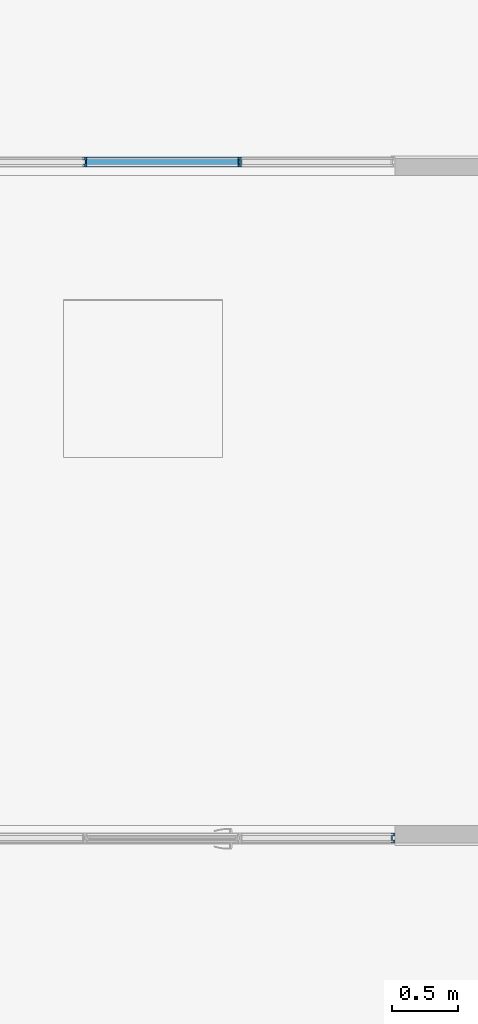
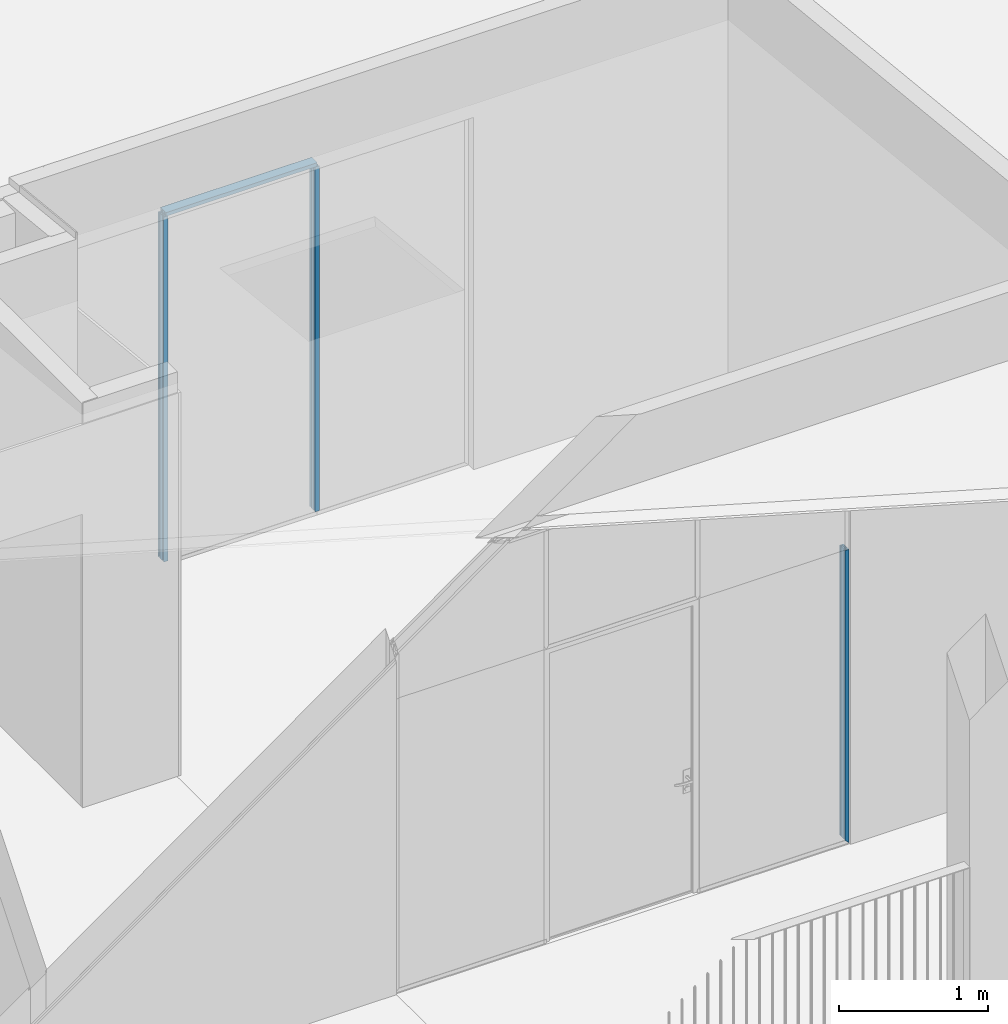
# One storey, part 5 of 43: 4 members, 2 elements without a shape of their own.
"""IFC2X3 building model written with IfcOpenShell, lengths in millimetres."""

from ifc_helpers import new_model, entity, si_unit, converted_unit, derived_unit, money_unit, direction, frame, origin_with_axes, place, context, subcontext, project, spatial, faceted_brep, source, transform, mapped, material, material_list, type_object, element, aggregate, save


model = new_model("IFC2X3")

# Units and contexts
model_context = context("Model", 3, precision=0.01, world=origin_with_axes(), true_north=direction((0.0, 1.0)))
body_context = subcontext(model_context, "Body", "Model", "MODEL_VIEW")
ifc_project = project(units=[si_unit("LENGTHUNIT", "METRE", prefix="MILLI"), si_unit("AREAUNIT", "SQUARE_METRE"), si_unit("VOLUMEUNIT", "CUBIC_METRE"), converted_unit("PLANEANGLEUNIT", "DEGREE", entity("IfcPlaneAngleMeasure", 0.0174532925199), si_unit("PLANEANGLEUNIT", "RADIAN"), dimensions=[0, 0, 0, 0, 0, 0, 0]), si_unit("SOLIDANGLEUNIT", "STERADIAN"), money_unit("EUR"), converted_unit("TIMEUNIT", "Year", entity("IfcTimeMeasure", 31556926.0), si_unit("TIMEUNIT", "SECOND"), dimensions=[0, 0, 1, 0, 0, 0, 0]), si_unit("MASSUNIT", "GRAM", prefix="KILO"), si_unit("THERMODYNAMICTEMPERATUREUNIT", "DEGREE_CELSIUS"), si_unit("LUMINOUSINTENSITYUNIT", "LUMEN"), si_unit("ENERGYUNIT", "JOULE", prefix="MEGA"), derived_unit("THERMALCONDUCTANCEUNIT", [(si_unit("POWERUNIT", "WATT"), 1), (si_unit("LENGTHUNIT", "METRE"), -1), (si_unit("THERMODYNAMICTEMPERATUREUNIT", "KELVIN"), -1)]), derived_unit("SPECIFICHEATCAPACITYUNIT", [(si_unit("ENERGYUNIT", "JOULE"), 1), (si_unit("MASSUNIT", "GRAM", prefix="KILO"), -1), (si_unit("THERMODYNAMICTEMPERATUREUNIT", "KELVIN"), -1)]), derived_unit("MASSDENSITYUNIT", [(si_unit("MASSUNIT", "GRAM", prefix="KILO"), 1), (si_unit("VOLUMEUNIT", "CUBIC_METRE"), -1)])], contexts=[model_context])

# Site, building, storey
site_placement = place(None, origin_with_axes())
site = spatial("IfcSite", under=ifc_project, at=site_placement, Name="L.Koidula tn 11b", CompositionType="ELEMENT")
building_placement = place(site_placement, origin_with_axes())
building = spatial("IfcBuilding", under=site, at=building_placement, Name="Rakvere Riigigümnaasium", CompositionType="ELEMENT")
storey_placement = place(building_placement, frame((0.0, 0.0, 6665.0), z_axis=(0.0, 0.0, 1.0), x_axis=(1.0, 0.0, 0.0)))
storey = spatial("IfcBuildingStorey", under=building, at=storey_placement, Name="3.korrus +6,66", CompositionType="ELEMENT", Elevation=6665.0)

# Curtain wall, member
curtain_wall_type = type_object("IfcCurtainWallType", Name="Curtain Wall Type", PredefinedType="NOTDEFINED")
curtain_wall_1_placement = place(storey_placement, frame((58878.6347232, 19272.4397072, 0.0), z_axis=(0.0, 0.0, 1.0), x_axis=(1.0, 0.0, 0.0)))
curtain_wall_1 = element("IfcCurtainWall", 1, at=curtain_wall_1_placement, inside=storey, type_object=curtain_wall_type, Name="SKLF-29")
ifc_material_1 = material(Name="Klaasvill")
ifc_material_2 = material(Name="Teras RAL7012")
ifc_material_list = material_list([ifc_material_1, ifc_material_2])
member_type_1 = type_object("IfcMemberType", Name="Boundary Frame 30 x 42", PredefinedType="MULLION")
shared_shape_1 = source(origin_with_axes(), body_context, "Body", "Brep", [
    faceted_brep([(13.8499999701, 15.000000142, 13.8500000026), (13.8499999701, 15.000000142, 2400.00000045), (7.49999990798, 15.000000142, 2400.00000045), (7.49999990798, 15.000000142, 7.49999992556), (13.8499999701, 29.0161444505, 13.8500000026), (13.8499999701, 29.0161444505, 2400.00000045), (7.49999990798, 29.0161444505, 2400.00000045), (7.49999990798, 29.0161444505, 7.49999992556)], [[[0, 1, 2, 3]], [[4, 5, 1, 0]], [[2, 1, 5, 6]], [[3, 2, 6, 7]], [[3, 7, 4, 0]], [[7, 6, 5, 4]]]),
    faceted_brep([(25.004489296, 27.0307503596, 25.0044893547), (25.004489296, 27.0307503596, 2400.00000045), (24.987414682, 29.0161444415, 2400.00000045), (24.987414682, 29.0161444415, 24.9874147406), (25.742237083, 26.2930025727, 25.7422371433), (25.742237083, 26.2930025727, 2400.00000045), (26.7500193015, 26.0229681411, 2400.00000045), (27.75780152, 26.2930025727, 2400.00000045), (28.4955493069, 27.0307503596, 2400.00000045), (28.7655837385, 28.0385325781, 2400.00000045), (28.5126239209, 29.0161444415, 2400.00000045), (28.5126239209, 29.0161444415, 28.5126239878), (28.7655837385, 28.0385325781, 28.765583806), (28.4955493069, 27.0307503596, 28.4955493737), (27.75780152, 26.2930025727, 27.7578015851), (26.7500193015, 26.0229681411, 26.7500193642)], [[[0, 1, 2, 3]], [[4, 5, 1, 0]], [[2, 1, 5, 6, 7, 8, 9, 10]], [[3, 2, 10, 11]], [[3, 11, 12, 13, 14, 15, 4, 0]], [[15, 6, 5, 4]], [[14, 7, 6, 15]], [[13, 8, 7, 14]], [[12, 9, 8, 13]], [[11, 10, 9, 12]]]),
    faceted_brep([(7.49999990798, -39.0161445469, 7.49999992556), (7.49999990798, -39.0161445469, 2400.00000045), (7.49999990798, -24.9999997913, 2400.00000045), (7.49999990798, -24.9999997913, 7.49999992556), (13.8499999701, -39.0161445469, 13.8500000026), (13.8499999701, -39.0161445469, 2400.00000045), (13.8499999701, -24.9999997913, 2400.00000045), (13.8499999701, -24.9999997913, 13.8500000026)], [[[0, 1, 2, 3]], [[4, 5, 1, 0]], [[2, 1, 5, 6]], [[3, 2, 6, 7]], [[3, 7, 4, 0]], [[7, 6, 5, 4]]]),
    faceted_brep([(24.987414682, -39.0161444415, 24.9874147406), (24.987414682, -39.0161444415, 2400.00000045), (25.004489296, -37.0307503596, 2400.00000045), (25.004489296, -37.0307503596, 25.0044893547), (28.5126239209, -39.0161444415, 28.5126239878), (28.5126239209, -39.0161444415, 2400.00000045), (28.7655837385, -38.0385325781, 2400.00000045), (28.4955493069, -37.0307503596, 2400.00000045), (27.75780152, -36.2930025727, 2400.00000045), (26.7500193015, -36.0229681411, 2400.00000045), (25.742237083, -36.2930025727, 2400.00000045), (25.742237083, -36.2930025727, 25.7422371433), (26.7500193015, -36.0229681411, 26.7500193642), (27.75780152, -36.2930025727, 27.7578015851), (28.4955493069, -37.0307503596, 28.4955493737), (28.7655837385, -38.0385325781, 28.765583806)], [[[0, 1, 2, 3]], [[4, 5, 1, 0]], [[2, 1, 5, 6, 7, 8, 9, 10]], [[3, 2, 10, 11]], [[3, 11, 12, 13, 14, 15, 4, 0]], [[15, 6, 5, 4]], [[14, 7, 6, 15]], [[13, 8, 7, 14]], [[12, 9, 8, 13]], [[11, 10, 9, 12]]]),
    faceted_brep([(29.5999996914, -22.0000000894, 29.5999997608), (29.5999996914, -22.0000000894, 2400.00000045), (0.0, -22.0000000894, 2400.00000045), (0.0, -22.0000000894, 0.0), (29.5999996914, 12.0000000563, 29.5999997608), (29.5999996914, 12.0000000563, 2400.00000045), (0.0, 12.0000000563, 2400.00000045), (1.9999999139, 10.0000001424, 2400.00000045), (18.7999996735, 10.0000001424, 2400.00000045), (18.7999996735, -20.0000001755, 2400.00000045), (1.9999999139, -20.0000001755, 2400.00000045), (0.0, 12.0000000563, 0.0), (1.9999999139, 10.0000001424, 1.99999991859), (1.9999999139, -20.0000001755, 1.99999991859), (18.7999996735, -20.0000001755, 18.7999997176), (18.7999996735, 10.0000001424, 18.7999997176)], [[[0, 1, 2, 3]], [[4, 5, 1, 0]], [[2, 1, 5, 6], [7, 8, 9, 10]], [[3, 2, 6, 11]], [[3, 11, 4, 0], [12, 13, 14, 15]], [[11, 6, 5, 4]], [[15, 8, 7, 12]], [[14, 9, 8, 15]], [[13, 10, 9, 14]], [[12, 7, 10, 13]]]),
    faceted_brep([(29.5999996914, 12.0000000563, 29.5999997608), (29.5999996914, 12.0000000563, 2400.00000045), (0.0, 12.0, 2400.00000045), (0.0, 12.0, 0.0), (30.0000193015, 12.0, 30.0000193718), (30.0000193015, 12.0, 2400.00000045), (30.0000193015, 15.0, 2400.00000045), (13.8499999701, 15.000000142, 2400.00000045), (7.49999999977, 15.0, 2400.00000045), (7.49999999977, 29.0161444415, 2400.00000045), (13.8499999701, 29.0161444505, 2400.00000045), (24.987414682, 29.0161444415, 2400.00000045), (28.5126239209, 29.0161444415, 2400.00000045), (30.0000193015, 29.0161444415, 2400.00000045), (30.0000193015, 32.0, 2400.00000045), (0.0, 32.0, 2400.00000045), (0.0, 32.0, 0.0), (30.0000193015, 32.0, 30.0000193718), (30.0000193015, 29.0161444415, 30.0000193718), (28.5126239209, 29.0161444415, 28.5126239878), (24.987414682, 29.0161444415, 24.9874147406), (13.8499999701, 29.0161444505, 13.8500000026), (7.49999999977, 29.0161444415, 7.50000001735), (7.49999999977, 15.0, 7.50000001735), (13.8499999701, 15.000000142, 13.8500000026), (30.0000193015, 15.0, 30.0000193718)], [[[0, 1, 2, 3]], [[4, 5, 1, 0]], [[2, 1, 5, 6, 7, 8, 9, 10, 11, 12, 13, 14, 15]], [[3, 2, 15, 16]], [[3, 16, 17, 18, 19, 20, 21, 22, 23, 24, 25, 4, 0]], [[25, 6, 5, 4]], [[24, 7, 6, 25]], [[23, 8, 7, 24]], [[22, 9, 8, 23]], [[21, 10, 9, 22]], [[20, 11, 10, 21]], [[19, 12, 11, 20]], [[18, 13, 12, 19]], [[17, 14, 13, 18]], [[16, 15, 14, 17]]]),
    faceted_brep([(0.0, -42.0, 0.0), (0.0, -42.0, 2400.00000045), (0.0, -22.0, 2400.00000045), (0.0, -22.0, 0.0), (30.0000193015, -42.0, 30.0000193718), (30.0000193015, -42.0, 2400.00000045), (30.0000193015, -39.0161444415, 2400.00000045), (28.5126239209, -39.0161444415, 2400.00000045), (24.987414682, -39.0161444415, 2400.00000045), (13.8499999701, -39.0161445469, 2400.00000045), (7.49999999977, -39.0161444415, 2400.00000045), (7.49999999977, -25.0, 2400.00000045), (13.8499999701, -24.9999997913, 2400.00000045), (30.0000193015, -25.0, 2400.00000045), (30.0000193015, -22.0, 2400.00000045), (29.5999996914, -22.0000000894, 2400.00000045), (29.5999996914, -22.0000000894, 29.5999997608), (30.0000193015, -22.0, 30.0000193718), (30.0000193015, -25.0, 30.0000193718), (13.8499999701, -24.9999997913, 13.8500000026), (7.49999999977, -25.0, 7.50000001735), (7.49999999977, -39.0161444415, 7.50000001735), (13.8499999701, -39.0161445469, 13.8500000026), (24.987414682, -39.0161444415, 24.9874147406), (28.5126239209, -39.0161444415, 28.5126239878), (30.0000193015, -39.0161444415, 30.0000193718)], [[[0, 1, 2, 3]], [[4, 5, 1, 0]], [[2, 1, 5, 6, 7, 8, 9, 10, 11, 12, 13, 14, 15]], [[3, 2, 15, 16]], [[3, 16, 17, 18, 19, 20, 21, 22, 23, 24, 25, 4, 0]], [[25, 6, 5, 4]], [[24, 7, 6, 25]], [[23, 8, 7, 24]], [[22, 9, 8, 23]], [[21, 10, 9, 22]], [[20, 11, 10, 21]], [[19, 12, 11, 20]], [[18, 13, 12, 19]], [[17, 14, 13, 18]], [[16, 15, 14, 17]]]),
])
member_1_placement = place(curtain_wall_1_placement, frame((2811.38617901, 0.0, 0.0), z_axis=(-2.34460154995e-09, 0.0, 1.0), x_axis=(-1.0, 0.0, -2.34460154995e-09)))
member_1 = element("IfcMember", 2, at=member_1_placement, type_object=member_type_1, material=ifc_material_list, Name="SKLF-30-raam", ObjectType="MULLION", context=body_context, shape_type="MappedRepresentation", body=[
    mapped(shared_shape_1, transform((0.0, 0.0, 0.0))),
])
aggregate(curtain_wall_1, [member_1])

# Curtain wall, members
curtain_wall_2_placement = place(storey_placement, frame((61105.020931, 24378.4555472, 0.0), z_axis=(0.0, 0.0, 1.0), x_axis=(1.0, 0.0, 0.0)))
curtain_wall_2 = element("IfcCurtainWall", 3, at=curtain_wall_2_placement, inside=storey, type_object=curtain_wall_type, Name="SKLF-28")
shared_shape_2 = source(origin_with_axes(), body_context, "Body", "Brep", [
    faceted_brep([(-7.49999990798, 15.000000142, 0.0), (-7.49999990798, 15.000000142, 1170.0), (-13.8499999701, 15.000000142, 1170.0), (-13.8499999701, 15.000000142, 0.0), (-7.49999990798, 29.0161444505, 0.0), (-7.49999990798, 29.0161444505, 1170.0), (-13.8499999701, 29.0161444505, 1170.0), (-13.8499999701, 29.0161444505, 0.0)], [[[0, 1, 2, 3]], [[4, 5, 1, 0]], [[1, 5, 6, 2]], [[3, 2, 6, 7]], [[0, 3, 7, 4]], [[7, 6, 5, 4]]]),
    faceted_brep([(-24.987414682, 29.0161444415, 0.0), (-24.987414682, 29.0161444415, 1170.0), (-25.004489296, 27.0307503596, 1170.0), (-25.004489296, 27.0307503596, 0.0), (-28.5126239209, 29.0161444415, 0.0), (-28.5126239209, 29.0161444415, 1170.0), (-28.7655837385, 28.0385325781, 1170.0), (-28.4955493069, 27.0307503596, 1170.0), (-27.75780152, 26.2930025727, 1170.0), (-26.7500193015, 26.0229681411, 1170.0), (-25.742237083, 26.2930025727, 1170.0), (-25.742237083, 26.2930025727, 0.0), (-26.7500193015, 26.0229681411, 0.0), (-27.75780152, 26.2930025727, 0.0), (-28.4955493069, 27.0307503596, 0.0), (-28.7655837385, 28.0385325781, 0.0)], [[[0, 1, 2, 3]], [[4, 5, 1, 0]], [[1, 5, 6, 7, 8, 9, 10, 2]], [[3, 2, 10, 11]], [[0, 3, 11, 12, 13, 14, 15, 4]], [[15, 6, 5, 4]], [[14, 7, 6, 15]], [[13, 8, 7, 14]], [[12, 9, 8, 13]], [[11, 10, 9, 12]]]),
    faceted_brep([(-7.49999990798, -24.9999997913, 0.0), (-7.49999990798, -24.9999997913, 1170.0), (-7.49999990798, -39.0161445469, 1170.0), (-7.49999990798, -39.0161445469, 0.0), (-13.8499999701, -24.9999997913, 0.0), (-13.8499999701, -24.9999997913, 1170.0), (-13.8499999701, -39.0161445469, 1170.0), (-13.8499999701, -39.0161445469, 0.0)], [[[0, 1, 2, 3]], [[4, 5, 1, 0]], [[1, 5, 6, 2]], [[3, 2, 6, 7]], [[0, 3, 7, 4]], [[7, 6, 5, 4]]]),
    faceted_brep([(-25.004489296, -37.0307503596, 0.0), (-25.004489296, -37.0307503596, 1170.0), (-24.987414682, -39.0161444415, 1170.0), (-24.987414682, -39.0161444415, 0.0), (-25.742237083, -36.2930025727, 0.0), (-25.742237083, -36.2930025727, 1170.0), (-26.7500193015, -36.0229681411, 1170.0), (-27.75780152, -36.2930025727, 1170.0), (-28.4955493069, -37.0307503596, 1170.0), (-28.7655837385, -38.0385325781, 1170.0), (-28.5126239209, -39.0161444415, 1170.0), (-28.5126239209, -39.0161444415, 0.0), (-28.7655837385, -38.0385325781, 0.0), (-28.4955493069, -37.0307503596, 0.0), (-27.75780152, -36.2930025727, 0.0), (-26.7500193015, -36.0229681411, 0.0)], [[[0, 1, 2, 3]], [[4, 5, 1, 0]], [[1, 5, 6, 7, 8, 9, 10, 2]], [[3, 2, 10, 11]], [[0, 3, 11, 12, 13, 14, 15, 4]], [[15, 6, 5, 4]], [[14, 7, 6, 15]], [[13, 8, 7, 14]], [[12, 9, 8, 13]], [[11, 10, 9, 12]]]),
    faceted_brep([(0.0, -22.0000000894, 0.0), (0.0, -22.0000000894, 1170.0), (-29.5999996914, -22.0000000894, 1170.0), (-29.5999996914, -22.0000000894, 0.0), (0.0, 12.0000000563, 0.0), (0.0, 12.0000000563, 1170.0), (-29.5999996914, 12.0000000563, 1170.0), (-1.9999999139, 10.0000001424, 1170.0), (-1.9999999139, -20.0000001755, 1170.0), (-18.7999996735, -20.0000001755, 1170.0), (-18.7999996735, 10.0000001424, 1170.0), (-29.5999996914, 12.0000000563, 0.0), (-1.9999999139, 10.0000001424, 0.0), (-18.7999996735, 10.0000001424, 0.0), (-18.7999996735, -20.0000001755, 0.0), (-1.9999999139, -20.0000001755, 0.0)], [[[0, 1, 2, 3]], [[4, 5, 1, 0]], [[1, 5, 6, 2], [7, 8, 9, 10]], [[3, 2, 6, 11]], [[0, 3, 11, 4], [12, 13, 14, 15]], [[11, 6, 5, 4]], [[15, 8, 7, 12]], [[14, 9, 8, 15]], [[13, 10, 9, 14]], [[12, 7, 10, 13]]]),
    faceted_brep([(0.0, 12.0, 0.0), (0.0, 12.0, 1170.0), (-29.5999996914, 12.0000000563, 1170.0), (-29.5999996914, 12.0000000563, 0.0), (0.0, 32.0, 0.0), (0.0, 32.0, 1170.0), (-30.0000193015, 32.0, 1170.0), (-30.0000193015, 29.0161444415, 1170.0), (-28.5126239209, 29.0161444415, 1170.0), (-24.987414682, 29.0161444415, 1170.0), (-13.8499999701, 29.0161444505, 1170.0), (-7.49999999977, 29.0161444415, 1170.0), (-7.49999999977, 15.0, 1170.0), (-13.8499999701, 15.000000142, 1170.0), (-30.0000193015, 15.0, 1170.0), (-30.0000193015, 12.0, 1170.0), (-30.0000193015, 12.0, 0.0), (-30.0000193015, 15.0, 0.0), (-13.8499999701, 15.000000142, 0.0), (-7.49999999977, 15.0, 0.0), (-7.49999999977, 29.0161444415, 0.0), (-13.8499999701, 29.0161444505, 0.0), (-24.987414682, 29.0161444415, 0.0), (-28.5126239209, 29.0161444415, 0.0), (-30.0000193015, 29.0161444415, 0.0), (-30.0000193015, 32.0, 0.0)], [[[0, 1, 2, 3]], [[4, 5, 1, 0]], [[1, 5, 6, 7, 8, 9, 10, 11, 12, 13, 14, 15, 2]], [[3, 2, 15, 16]], [[0, 3, 16, 17, 18, 19, 20, 21, 22, 23, 24, 25, 4]], [[25, 6, 5, 4]], [[24, 7, 6, 25]], [[23, 8, 7, 24]], [[22, 9, 8, 23]], [[21, 10, 9, 22]], [[20, 11, 10, 21]], [[19, 12, 11, 20]], [[18, 13, 12, 19]], [[17, 14, 13, 18]], [[16, 15, 14, 17]]]),
    faceted_brep([(0.0, -22.0, 0.0), (0.0, -22.0, 1170.0), (0.0, -42.0, 1170.0), (0.0, -42.0, 0.0), (-29.5999996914, -22.0000000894, 0.0), (-29.5999996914, -22.0000000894, 1170.0), (-30.0000193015, -22.0, 1170.0), (-30.0000193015, -25.0, 1170.0), (-13.8499999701, -24.9999997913, 1170.0), (-7.49999999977, -25.0, 1170.0), (-7.49999999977, -39.0161444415, 1170.0), (-13.8499999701, -39.0161445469, 1170.0), (-24.987414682, -39.0161444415, 1170.0), (-28.5126239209, -39.0161444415, 1170.0), (-30.0000193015, -39.0161444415, 1170.0), (-30.0000193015, -42.0, 1170.0), (-30.0000193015, -42.0, 0.0), (-30.0000193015, -39.0161444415, 0.0), (-28.5126239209, -39.0161444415, 0.0), (-24.987414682, -39.0161444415, 0.0), (-13.8499999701, -39.0161445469, 0.0), (-7.49999999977, -39.0161444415, 0.0), (-7.49999999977, -25.0, 0.0), (-13.8499999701, -24.9999997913, 0.0), (-30.0000193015, -25.0, 0.0), (-30.0000193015, -22.0, 0.0)], [[[0, 1, 2, 3]], [[4, 5, 1, 0]], [[1, 5, 6, 7, 8, 9, 10, 11, 12, 13, 14, 15, 2]], [[3, 2, 15, 16]], [[0, 3, 16, 17, 18, 19, 20, 21, 22, 23, 24, 25, 4]], [[25, 6, 5, 4]], [[24, 7, 6, 25]], [[23, 8, 7, 24]], [[22, 9, 8, 23]], [[21, 10, 9, 22]], [[20, 11, 10, 21]], [[19, 12, 11, 20]], [[18, 13, 12, 19]], [[17, 14, 13, 18]], [[16, 15, 14, 17]]]),
])
member_2_placement = place(curtain_wall_2_placement, frame((-585.0, 0.0, 2880.00001207), z_axis=(-1.0, 0.0, 0.0), x_axis=(0.0, 0.0, 1.0)))
member_2 = element("IfcMember", 4, at=member_2_placement, type_object=member_type_1, material=ifc_material_list, Name="SKLF-77-raam", ObjectType="MULLION", context=body_context, shape_type="MappedRepresentation", body=[
    mapped(shared_shape_2, transform((0.0, 0.0, 0.0))),
])
member_type_2 = type_object("IfcMemberType", Name="Siseklaasfassaad-Vaheprofiil-Doubleline30 34 x 42", PredefinedType="MULLION")
shared_shape_3 = source(origin_with_axes(), body_context, "Body", "Brep", [
    faceted_brep([(12.004489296, 27.0307503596, 30.0000193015), (12.004489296, 27.0307503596, 2849.99999277), (11.987414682, 29.0161444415, 2849.99999277), (11.987414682, 29.0161444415, 30.0000193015), (12.742237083, 26.2930025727, 30.0000193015), (12.742237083, 26.2930025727, 2849.99999277), (13.7500193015, 26.0229681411, 2849.99999277), (14.75780152, 26.2930025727, 2849.99999277), (15.4955493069, 27.0307503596, 2849.99999277), (15.7655837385, 28.0385325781, 2849.99999277), (15.5126239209, 29.0161444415, 2849.99999277), (15.5126239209, 29.0161444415, 30.0000193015), (15.7655837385, 28.0385325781, 30.0000193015), (15.4955493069, 27.0307503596, 30.0000193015), (14.75780152, 26.2930025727, 30.0000193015), (13.7500193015, 26.0229681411, 30.0000193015)], [[[0, 1, 2, 3]], [[4, 5, 1, 0]], [[2, 1, 5, 6, 7, 8, 9, 10]], [[3, 2, 10, 11]], [[3, 11, 12, 13, 14, 15, 4, 0]], [[15, 6, 5, 4]], [[14, 7, 6, 15]], [[13, 8, 7, 14]], [[12, 9, 8, 13]], [[11, 10, 9, 12]]]),
    faceted_brep([(15.4955493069, -37.0307503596, 30.0000193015), (15.4955493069, -37.0307503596, 2849.99999277), (15.5126239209, -39.0161444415, 2849.99999277), (15.5126239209, -39.0161444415, 30.0000193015), (14.75780152, -36.2930025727, 30.0000193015), (14.75780152, -36.2930025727, 2849.99999277), (13.7500193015, -36.0229681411, 2849.99999277), (12.742237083, -36.2930025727, 2849.99999277), (12.004489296, -37.0307503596, 2849.99999277), (11.7344548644, -38.0385325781, 2849.99999277), (11.987414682, -39.0161444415, 2849.99999277), (11.987414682, -39.0161444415, 30.0000193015), (11.7344548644, -38.0385325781, 30.0000193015), (12.004489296, -37.0307503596, 30.0000193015), (12.742237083, -36.2930025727, 30.0000193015), (13.7500193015, -36.0229681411, 30.0000193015)], [[[0, 1, 2, 3]], [[4, 5, 1, 0]], [[2, 1, 5, 6, 7, 8, 9, 10]], [[3, 2, 10, 11]], [[3, 11, 12, 13, 14, 15, 4, 0]], [[15, 6, 5, 4]], [[14, 7, 6, 15]], [[13, 8, 7, 14]], [[12, 9, 8, 13]], [[11, 10, 9, 12]]]),
    faceted_brep([(-15.7655837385, 28.0385325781, 30.0000193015), (-15.7655837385, 28.0385325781, 2849.99999277), (-11.987414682, 29.0161444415, 2849.99999277), (-11.987414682, 29.0161444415, 30.0000193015), (-15.4955493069, 27.0307503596, 30.0000193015), (-15.4955493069, 27.0307503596, 2849.99999277), (-14.75780152, 26.2930025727, 2849.99999277), (-13.7500193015, 26.0229681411, 2849.99999277), (-12.742237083, 26.2930025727, 2849.99999277), (-12.004489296, 27.0307503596, 2849.99999277), (-11.7344548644, 28.0385325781, 2849.99999277), (-11.7344548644, 28.0385325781, 30.0000193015), (-12.004489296, 27.0307503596, 30.0000193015), (-12.742237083, 26.2930025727, 30.0000193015), (-13.7500193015, 26.0229681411, 30.0000193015), (-14.75780152, 26.2930025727, 30.0000193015)], [[[0, 1, 2, 3]], [[4, 5, 1, 0]], [[2, 1, 5, 6, 7, 8, 9, 10]], [[3, 2, 10, 11]], [[3, 11, 12, 13, 14, 15, 4, 0]], [[15, 6, 5, 4]], [[14, 7, 6, 15]], [[13, 8, 7, 14]], [[12, 9, 8, 13]], [[11, 10, 9, 12]]]),
    faceted_brep([(-15.5126239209, -39.0161444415, 30.0000193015), (-15.5126239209, -39.0161444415, 2849.99999277), (-15.4955493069, -37.0307503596, 2849.99999277), (-15.4955493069, -37.0307503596, 30.0000193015), (-11.987414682, -39.0161444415, 30.0000193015), (-11.987414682, -39.0161444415, 2849.99999277), (-11.7344548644, -38.0385325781, 2849.99999277), (-12.004489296, -37.0307503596, 2849.99999277), (-12.742237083, -36.2930025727, 2849.99999277), (-13.7500193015, -36.0229681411, 2849.99999277), (-14.75780152, -36.2930025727, 2849.99999277), (-14.75780152, -36.2930025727, 30.0000193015), (-13.7500193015, -36.0229681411, 30.0000193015), (-12.742237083, -36.2930025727, 30.0000193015), (-12.004489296, -37.0307503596, 30.0000193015), (-11.7344548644, -38.0385325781, 30.0000193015)], [[[0, 1, 2, 3]], [[4, 5, 1, 0]], [[2, 1, 5, 6, 7, 8, 9, 10]], [[3, 2, 10, 11]], [[3, 11, 12, 13, 14, 15, 4, 0]], [[15, 6, 5, 4]], [[14, 7, 6, 15]], [[13, 8, 7, 14]], [[12, 9, 8, 13]], [[11, 10, 9, 12]]]),
    faceted_brep([(-3.08905781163e-07, -22.0000000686, 30.0000193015), (-3.08905781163e-07, -22.0000000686, 2849.99999277), (-14.8000001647, -22.0000000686, 2849.99999277), (-14.8000001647, -22.0000000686, 30.0000193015), (14.8000003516, -22.0000000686, 30.0000193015), (14.8000003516, -22.0000000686, 2849.99999277), (14.8000003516, 12.0000001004, 2849.99999277), (-3.08905781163e-07, 12.0000001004, 2849.99999277), (-14.8000001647, 12.0000001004, 2849.99999277), (-12.8000002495, 10.0000001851, 2849.99999277), (4.0000003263, 10.0000001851, 2849.99999277), (4.0000003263, -20.0000001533, 2849.99999277), (-12.8000002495, -20.0000001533, 2849.99999277), (-14.8000001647, 12.0000001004, 30.0000193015), (-3.08905781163e-07, 12.0000001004, 30.0000193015), (14.8000003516, 12.0000001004, 30.0000193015), (-12.8000002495, 10.0000001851, 30.0000193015), (-12.8000002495, -20.0000001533, 30.0000193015), (4.0000003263, -20.0000001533, 30.0000193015), (4.0000003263, 10.0000001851, 30.0000193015)], [[[0, 1, 2, 3]], [[4, 5, 1, 0]], [[2, 1, 5, 6, 7, 8], [9, 10, 11, 12]], [[3, 2, 8, 13]], [[3, 13, 14, 15, 4, 0], [16, 17, 18, 19]], [[15, 6, 5, 4]], [[14, 7, 6, 15]], [[13, 8, 7, 14]], [[19, 10, 9, 16]], [[18, 11, 10, 19]], [[17, 12, 11, 18]], [[16, 9, 12, 17]]]),
    faceted_brep([(0.0, 12.0, 30.0000193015), (0.0, 12.0, 2849.99999277), (0.0, 32.0000000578, 2849.99999277), (0.0, 32.0000000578, 30.0000193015), (14.8000003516, 12.0000001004, 30.0000193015), (14.8000003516, 12.0000001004, 2849.99999277), (17.0000193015, 12.0, 2849.99999277), (17.0000193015, 15.0000000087, 2849.99999277), (7.50000002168, 15.0000000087, 2849.99999277), (7.50000002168, 29.0161446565, 2849.99999277), (11.987414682, 29.0161444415, 2849.99999277), (15.5126239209, 29.0161444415, 2849.99999277), (17.0000193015, 29.0161446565, 2849.99999277), (17.0000193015, 32.0000000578, 2849.99999277), (17.0000193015, 32.0000000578, 30.0000193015), (17.0000193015, 29.0161446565, 30.0000193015), (15.5126239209, 29.0161444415, 30.0000193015), (11.987414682, 29.0161444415, 30.0000193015), (7.50000002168, 29.0161446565, 30.0000193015), (7.50000002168, 15.0000000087, 30.0000193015), (17.0000193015, 15.0000000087, 30.0000193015), (17.0000193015, 12.0, 30.0000193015)], [[[0, 1, 2, 3]], [[4, 5, 1, 0]], [[2, 1, 5, 6, 7, 8, 9, 10, 11, 12, 13]], [[3, 2, 13, 14]], [[3, 14, 15, 16, 17, 18, 19, 20, 21, 4, 0]], [[21, 6, 5, 4]], [[20, 7, 6, 21]], [[19, 8, 7, 20]], [[18, 9, 8, 19]], [[17, 10, 9, 18]], [[16, 11, 10, 17]], [[15, 12, 11, 16]], [[14, 13, 12, 15]]]),
    faceted_brep([(0.0, -42.0, 30.0000193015), (0.0, -42.0, 2849.99999277), (0.0, -21.9999999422, 2849.99999277), (0.0, -21.9999999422, 30.0000193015), (17.0000193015, -42.0, 30.0000193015), (17.0000193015, -42.0, 2849.99999277), (17.0000193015, -39.0161445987, 2849.99999277), (15.5126239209, -39.0161444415, 2849.99999277), (11.987414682, -39.0161444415, 2849.99999277), (7.50000002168, -39.0161445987, 2849.99999277), (7.50000002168, -24.9999999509, 2849.99999277), (17.0000193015, -24.9999999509, 2849.99999277), (17.0000193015, -21.9999999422, 2849.99999277), (14.8000003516, -22.0000000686, 2849.99999277), (14.8000003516, -22.0000000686, 30.0000193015), (17.0000193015, -21.9999999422, 30.0000193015), (17.0000193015, -24.9999999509, 30.0000193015), (7.50000002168, -24.9999999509, 30.0000193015), (7.50000002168, -39.0161445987, 30.0000193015), (11.987414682, -39.0161444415, 30.0000193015), (15.5126239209, -39.0161444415, 30.0000193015), (17.0000193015, -39.0161445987, 30.0000193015)], [[[0, 1, 2, 3]], [[4, 5, 1, 0]], [[2, 1, 5, 6, 7, 8, 9, 10, 11, 12, 13]], [[3, 2, 13, 14]], [[3, 14, 15, 16, 17, 18, 19, 20, 21, 4, 0]], [[21, 6, 5, 4]], [[20, 7, 6, 21]], [[19, 8, 7, 20]], [[18, 9, 8, 19]], [[17, 10, 9, 18]], [[16, 11, 10, 17]], [[15, 12, 11, 16]], [[14, 13, 12, 15]]]),
    faceted_brep([(0.0, 32.0, 30.0000193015), (0.0, 32.0, 2849.99999277), (0.0, 12.0, 2849.99999277), (0.0, 12.0, 30.0000193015), (-17.0000193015, 32.0, 30.0000193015), (-17.0000193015, 32.0, 2849.99999277), (-17.0000193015, 29.0161444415, 2849.99999277), (-15.5126239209, 29.0161444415, 2849.99999277), (-11.987414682, 29.0161444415, 2849.99999277), (-7.49999999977, 29.0161444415, 2849.99999277), (-7.49999999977, 15.0, 2849.99999277), (-17.0000193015, 15.0, 2849.99999277), (-17.0000193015, 12.0, 2849.99999277), (-14.8000001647, 12.0000001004, 2849.99999277), (-14.8000001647, 12.0000001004, 30.0000193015), (-17.0000193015, 12.0, 30.0000193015), (-17.0000193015, 15.0, 30.0000193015), (-7.49999999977, 15.0, 30.0000193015), (-7.49999999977, 29.0161444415, 30.0000193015), (-11.987414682, 29.0161444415, 30.0000193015), (-15.5126239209, 29.0161444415, 30.0000193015), (-17.0000193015, 29.0161444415, 30.0000193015)], [[[0, 1, 2, 3]], [[4, 5, 1, 0]], [[2, 1, 5, 6, 7, 8, 9, 10, 11, 12, 13]], [[3, 2, 13, 14]], [[3, 14, 15, 16, 17, 18, 19, 20, 21, 4, 0]], [[21, 6, 5, 4]], [[20, 7, 6, 21]], [[19, 8, 7, 20]], [[18, 9, 8, 19]], [[17, 10, 9, 18]], [[16, 11, 10, 17]], [[15, 12, 11, 16]], [[14, 13, 12, 15]]]),
    faceted_brep([(-14.8000001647, -22.0000000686, 30.0000193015), (-14.8000001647, -22.0000000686, 2849.99999277), (0.0, -22.0, 2849.99999277), (0.0, -22.0, 30.0000193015), (-17.0000193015, -22.0, 30.0000193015), (-17.0000193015, -22.0, 2849.99999277), (-17.0000193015, -25.0, 2849.99999277), (-7.49999999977, -25.0, 2849.99999277), (-7.49999999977, -39.0161444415, 2849.99999277), (-11.987414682, -39.0161444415, 2849.99999277), (-15.5126239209, -39.0161444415, 2849.99999277), (-17.0000193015, -39.0161444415, 2849.99999277), (-17.0000193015, -42.0, 2849.99999277), (0.0, -42.0, 2849.99999277), (0.0, -42.0, 30.0000193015), (-17.0000193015, -42.0, 30.0000193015), (-17.0000193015, -39.0161444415, 30.0000193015), (-15.5126239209, -39.0161444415, 30.0000193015), (-11.987414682, -39.0161444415, 30.0000193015), (-7.49999999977, -39.0161444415, 30.0000193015), (-7.49999999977, -25.0, 30.0000193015), (-17.0000193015, -25.0, 30.0000193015)], [[[0, 1, 2, 3]], [[4, 5, 1, 0]], [[2, 1, 5, 6, 7, 8, 9, 10, 11, 12, 13]], [[3, 2, 13, 14]], [[3, 14, 15, 16, 17, 18, 19, 20, 21, 4, 0]], [[21, 6, 5, 4]], [[20, 7, 6, 21]], [[19, 8, 7, 20]], [[18, 9, 8, 19]], [[17, 10, 9, 18]], [[16, 11, 10, 17]], [[15, 12, 11, 16]], [[14, 13, 12, 15]]]),
])
member_3_placement = place(curtain_wall_2_placement, frame((-585.0, 0.0, 0.0), z_axis=(0.0, 0.0, 1.0), x_axis=(1.0, 0.0, 0.0)))
member_3 = element("IfcMember", 5, at=member_3_placement, type_object=member_type_2, material=ifc_material_list, Name="Frame-Siseklaasf-227", ObjectType="MULLION", context=body_context, shape_type="MappedRepresentation", body=[
    mapped(shared_shape_3, transform((0.0, 0.0, 0.0))),
])
member_4_placement = place(curtain_wall_2_placement, frame((-1755.0, 0.0, 0.0), z_axis=(0.0, 0.0, 1.0), x_axis=(1.0, 0.0, 0.0)))
member_4 = element("IfcMember", 6, at=member_4_placement, type_object=member_type_2, material=ifc_material_list, Name="Frame-Siseklaasf-228", ObjectType="MULLION", context=body_context, shape_type="MappedRepresentation", body=[
    mapped(shared_shape_3, transform((0.0, 0.0, 0.0))),
])
aggregate(curtain_wall_2, [member_3, member_4, member_2])

save(model, "model.ifc")
